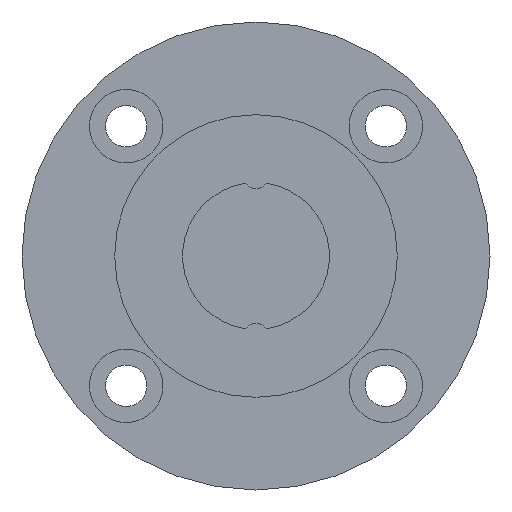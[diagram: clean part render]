
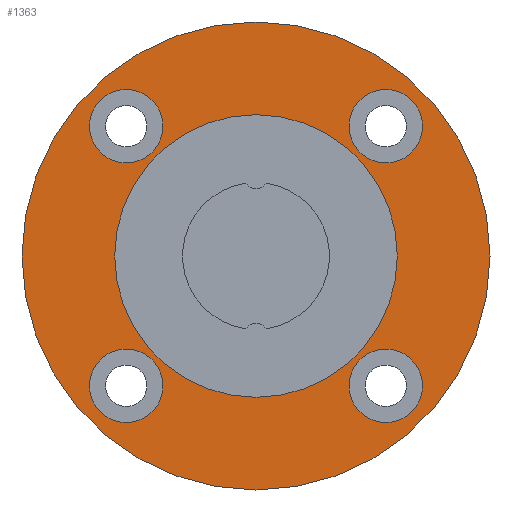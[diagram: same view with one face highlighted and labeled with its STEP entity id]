
A CAD part, left-side view. The second image highlights one B-rep face of the part: STEP entity #1363.
In plain terms, the highlighted planar face has unit normal (-1, 0, 0).
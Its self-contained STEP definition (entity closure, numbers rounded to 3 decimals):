
#357=CARTESIAN_POINT('',(9.5,-14.142,-10.142));
#358=VERTEX_POINT('',#357);
#359=CARTESIAN_POINT('',(9.5,-14.142,-14.142));
#360=DIRECTION('',(1.0,0.0,0.0));
#361=DIRECTION('',(0.0,0.0,1.0));
#362=AXIS2_PLACEMENT_3D('',#359,#360,#361);
#363=CIRCLE('',#362,4.0);
#364=EDGE_CURVE('',#358,#358,#363,.T.);
#467=CARTESIAN_POINT('',(9.5,14.142,-10.142));
#468=VERTEX_POINT('',#467);
#469=CARTESIAN_POINT('',(9.5,14.142,-14.142));
#470=DIRECTION('',(1.0,0.0,0.0));
#471=DIRECTION('',(0.0,0.0,1.0));
#472=AXIS2_PLACEMENT_3D('',#469,#470,#471);
#473=CIRCLE('',#472,4.0);
#474=EDGE_CURVE('',#468,#468,#473,.T.);
#577=CARTESIAN_POINT('',(9.5,14.142,18.142));
#578=VERTEX_POINT('',#577);
#579=CARTESIAN_POINT('',(9.5,14.142,14.142));
#580=DIRECTION('',(1.0,0.0,0.0));
#581=DIRECTION('',(0.0,0.0,1.0));
#582=AXIS2_PLACEMENT_3D('',#579,#580,#581);
#583=CIRCLE('',#582,4.0);
#584=EDGE_CURVE('',#578,#578,#583,.T.);
#687=CARTESIAN_POINT('',(9.5,-14.142,18.142));
#688=VERTEX_POINT('',#687);
#689=CARTESIAN_POINT('',(9.5,-14.142,14.142));
#690=DIRECTION('',(1.0,0.0,0.0));
#691=DIRECTION('',(0.0,0.0,1.0));
#692=AXIS2_PLACEMENT_3D('',#689,#690,#691);
#693=CIRCLE('',#692,4.0);
#694=EDGE_CURVE('',#688,#688,#693,.T.);
#1317=CARTESIAN_POINT('',(9.5,0.0,25.5));
#1318=VERTEX_POINT('',#1317);
#1319=CARTESIAN_POINT('',(9.5,0.0,0.));
#1320=DIRECTION('',(-1.0,0.0,0.0));
#1321=DIRECTION('',(0.0,0.0,1.0));
#1322=AXIS2_PLACEMENT_3D('',#1319,#1320,#1321);
#1323=CIRCLE('',#1322,25.5);
#1324=EDGE_CURVE('',#1318,#1318,#1323,.T.);
#1332=CARTESIAN_POINT('',(9.5,0.0,20.45));
#1333=DIRECTION('',(-1.0,0.0,0.0));
#1334=DIRECTION('',(0.0,0.0,1.0));
#1335=AXIS2_PLACEMENT_3D('',#1332,#1333,#1334);
#1336=PLANE('',#1335);
#1337=ORIENTED_EDGE('',*,*,#1324,.T.);
#1338=EDGE_LOOP('',(#1337));
#1339=FACE_OUTER_BOUND('',#1338,.T.);
#1340=ORIENTED_EDGE('',*,*,#364,.T.);
#1341=EDGE_LOOP('',(#1340));
#1342=FACE_BOUND('',#1341,.T.);
#1343=ORIENTED_EDGE('',*,*,#474,.T.);
#1344=EDGE_LOOP('',(#1343));
#1345=FACE_BOUND('',#1344,.T.);
#1346=ORIENTED_EDGE('',*,*,#584,.T.);
#1347=EDGE_LOOP('',(#1346));
#1348=FACE_BOUND('',#1347,.T.);
#1349=ORIENTED_EDGE('',*,*,#694,.T.);
#1350=EDGE_LOOP('',(#1349));
#1351=FACE_BOUND('',#1350,.T.);
#1352=CARTESIAN_POINT('',(9.5,0.0,15.4));
#1353=VERTEX_POINT('',#1352);
#1354=CARTESIAN_POINT('',(9.5,0.0,0.));
#1355=DIRECTION('',(-1.0,0.0,0.0));
#1356=DIRECTION('',(0.0,0.0,1.0));
#1357=AXIS2_PLACEMENT_3D('',#1354,#1355,#1356);
#1358=CIRCLE('',#1357,15.4);
#1359=EDGE_CURVE('',#1353,#1353,#1358,.T.);
#1360=ORIENTED_EDGE('',*,*,#1359,.F.);
#1361=EDGE_LOOP('',(#1360));
#1362=FACE_BOUND('',#1361,.T.);
#1363=ADVANCED_FACE('',(#1339,#1342,#1345,#1348,#1351,#1362),#1336,.T.);
